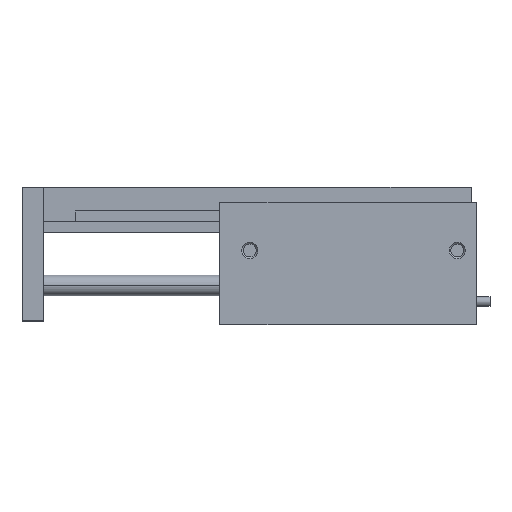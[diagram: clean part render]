
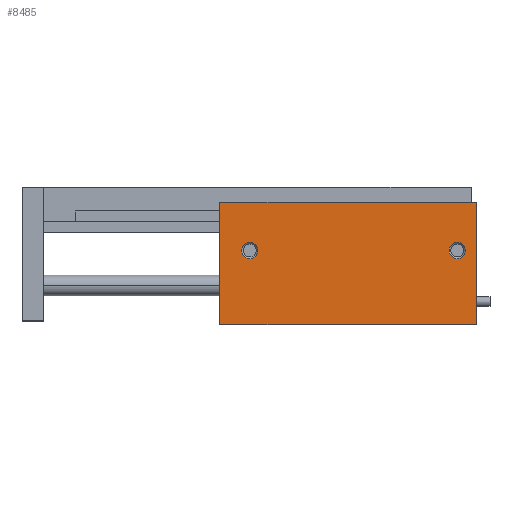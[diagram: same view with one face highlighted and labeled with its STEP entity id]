
A CAD part, top view. The second image highlights one B-rep face of the part: STEP entity #8485.
In plain terms, the highlighted planar face has unit normal (0, 0, 1) as drawn and (0, 0, -1) by its records, which use the part's own axes.
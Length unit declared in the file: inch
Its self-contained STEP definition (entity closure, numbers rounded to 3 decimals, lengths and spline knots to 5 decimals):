
#197 = DIRECTION ( 'NONE',  ( -1., 0., 0. ) ) ;
#272 = DIRECTION ( 'NONE',  ( 0., 0., 1. ) ) ;
#469 = LINE ( 'NONE', #6816, #8220 ) ;
#709 = FACE_BOUND ( 'NONE', #5548, .T. ) ;
#774 = ORIENTED_EDGE ( 'NONE', *, *, #2983, .T. ) ;
#820 = ORIENTED_EDGE ( 'NONE', *, *, #8759, .T. ) ;
#830 = LINE ( 'NONE', #1669, #2834 ) ;
#834 = PLANE ( 'NONE',  #2736 ) ;
#1028 = AXIS2_PLACEMENT_3D ( 'NONE', #4741, #272, #5514 ) ;
#1669 = CARTESIAN_POINT ( 'NONE',  ( 0., -0.715, -0.531 ) ) ;
#1883 = AXIS2_PLACEMENT_3D ( 'NONE', #3612, #8894, #4356 ) ;
#1954 = CARTESIAN_POINT ( 'NONE',  ( 0., -0.715, -0.531 ) ) ;
#2002 = VERTEX_POINT ( 'NONE', #1954 ) ;
#2106 = VERTEX_POINT ( 'NONE', #4344 ) ;
#2259 = ORIENTED_EDGE ( 'NONE', *, *, #3249, .T. ) ;
#2278 = VERTEX_POINT ( 'NONE', #8378 ) ;
#2297 = ORIENTED_EDGE ( 'NONE', *, *, #4734, .F. ) ;
#2351 = EDGE_CURVE ( 'NONE', #2002, #2278, #830, .T. ) ;
#2600 = CIRCLE ( 'NONE', #1883, 0.095 ) ;
#2610 = VERTEX_POINT ( 'NONE', #7214 ) ;
#2736 = AXIS2_PLACEMENT_3D ( 'NONE', #6071, #3826, #9114 ) ;
#2834 = VECTOR ( 'NONE', #7708, 39.37008 ) ;
#2966 = DIRECTION ( 'NONE',  ( 0., 0., 1. ) ) ;
#2983 = EDGE_CURVE ( 'NONE', #4490, #2002, #7171, .T. ) ;
#3027 = DIRECTION ( 'NONE',  ( 0., 0., 1. ) ) ;
#3244 = VERTEX_POINT ( 'NONE', #7427 ) ;
#3246 = LINE ( 'NONE', #6605, #7246 ) ;
#3249 = EDGE_CURVE ( 'NONE', #2610, #8597, #6798, .T. ) ;
#3333 = VERTEX_POINT ( 'NONE', #6820 ) ;
#3612 = CARTESIAN_POINT ( 'NONE',  ( 0.225, 0.153, -0.531 ) ) ;
#3826 = DIRECTION ( 'NONE',  ( 0., 0., 1. ) ) ;
#4344 = CARTESIAN_POINT ( 'NONE',  ( 0.13, 0.153, -0.531 ) ) ;
#4356 = DIRECTION ( 'NONE',  ( 1., 0., 0. ) ) ;
#4490 = VERTEX_POINT ( 'NONE', #5794 ) ;
#4673 = CARTESIAN_POINT ( 'NONE',  ( 3., -0.715, -0.531 ) ) ;
#4679 = FACE_OUTER_BOUND ( 'NONE', #7907, .T. ) ;
#4734 = EDGE_CURVE ( 'NONE', #3333, #2278, #469, .T. ) ;
#4741 = CARTESIAN_POINT ( 'NONE',  ( 2.65, 0.153, -0.531 ) ) ;
#4813 = CIRCLE ( 'NONE', #1028, 0.095 ) ;
#5008 = CIRCLE ( 'NONE', #7687, 0.095 ) ;
#5078 = EDGE_LOOP ( 'NONE', ( #820, #2259 ) ) ;
#5151 = VECTOR ( 'NONE', #197, 39.37008 ) ;
#5514 = DIRECTION ( 'NONE',  ( 1., 0., 0. ) ) ;
#5548 = EDGE_LOOP ( 'NONE', ( #8276, #6107 ) ) ;
#5794 = CARTESIAN_POINT ( 'NONE',  ( 3., -0.715, -0.531 ) ) ;
#6071 = CARTESIAN_POINT ( 'NONE',  ( 3., -0.715, -0.531 ) ) ;
#6086 = DIRECTION ( 'NONE',  ( -1., 0., 0. ) ) ;
#6107 = ORIENTED_EDGE ( 'NONE', *, *, #8287, .T. ) ;
#6605 = CARTESIAN_POINT ( 'NONE',  ( 3., -0.715, -0.531 ) ) ;
#6798 = CIRCLE ( 'NONE', #8967, 0.095 ) ;
#6816 = CARTESIAN_POINT ( 'NONE',  ( 3., 0.715, -0.531 ) ) ;
#6820 = CARTESIAN_POINT ( 'NONE',  ( 3., 0.715, -0.531 ) ) ;
#7171 = LINE ( 'NONE', #4673, #5151 ) ;
#7214 = CARTESIAN_POINT ( 'NONE',  ( 2.745, 0.153, -0.531 ) ) ;
#7246 = VECTOR ( 'NONE', #8132, 39.37008 ) ;
#7255 = EDGE_CURVE ( 'NONE', #4490, #3333, #3246, .T. ) ;
#7396 = EDGE_CURVE ( 'NONE', #2106, #3244, #5008, .T. ) ;
#7427 = CARTESIAN_POINT ( 'NONE',  ( 0.32, 0.153, -0.531 ) ) ;
#7456 = CARTESIAN_POINT ( 'NONE',  ( 2.65, 0.153, -0.531 ) ) ;
#7536 = CARTESIAN_POINT ( 'NONE',  ( 0.225, 0.153, -0.531 ) ) ;
#7687 = AXIS2_PLACEMENT_3D ( 'NONE', #7536, #3027, #8288 ) ;
#7708 = DIRECTION ( 'NONE',  ( 0., 1., 0. ) ) ;
#7772 = CARTESIAN_POINT ( 'NONE',  ( 2.555, 0.153, -0.531 ) ) ;
#7907 = EDGE_LOOP ( 'NONE', ( #8364, #2297, #8383, #774 ) ) ;
#8132 = DIRECTION ( 'NONE',  ( 0., 1., 0. ) ) ;
#8220 = VECTOR ( 'NONE', #6086, 39.37008 ) ;
#8222 = DIRECTION ( 'NONE',  ( 1., 0., 0. ) ) ;
#8276 = ORIENTED_EDGE ( 'NONE', *, *, #7396, .T. ) ;
#8287 = EDGE_CURVE ( 'NONE', #3244, #2106, #2600, .T. ) ;
#8288 = DIRECTION ( 'NONE',  ( 1., 0., 0. ) ) ;
#8364 = ORIENTED_EDGE ( 'NONE', *, *, #2351, .T. ) ;
#8378 = CARTESIAN_POINT ( 'NONE',  ( 0., 0.715, -0.531 ) ) ;
#8383 = ORIENTED_EDGE ( 'NONE', *, *, #7255, .F. ) ;
#8482 = FACE_BOUND ( 'NONE', #5078, .T. ) ;
#8485 = ADVANCED_FACE ( 'NONE', ( #709, #4679, #8482 ), #834, .F. ) ;
#8597 = VERTEX_POINT ( 'NONE', #7772 ) ;
#8759 = EDGE_CURVE ( 'NONE', #8597, #2610, #4813, .T. ) ;
#8894 = DIRECTION ( 'NONE',  ( 0., 0., 1. ) ) ;
#8967 = AXIS2_PLACEMENT_3D ( 'NONE', #7456, #2966, #8222 ) ;
#9114 = DIRECTION ( 'NONE',  ( 1., 0., 0. ) ) ;
